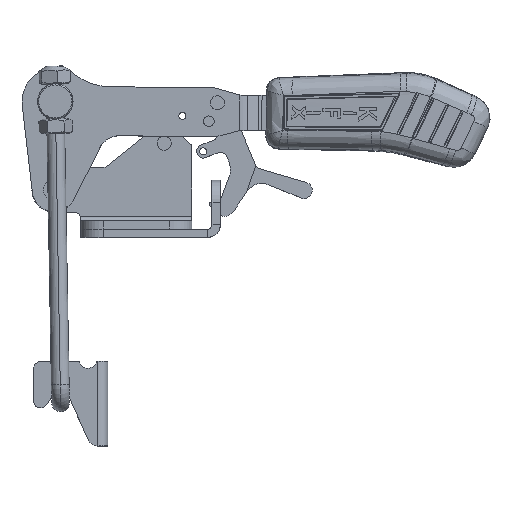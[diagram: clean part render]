
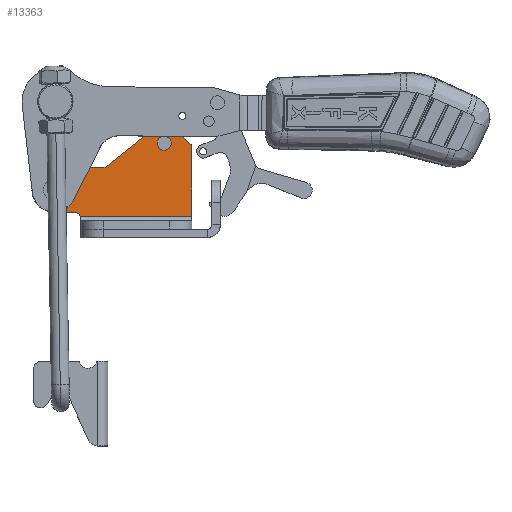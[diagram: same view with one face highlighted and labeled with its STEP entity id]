
A CAD part, top view. The second image highlights one B-rep face of the part: STEP entity #13363.
In plain terms, the highlighted planar face has unit normal (0, 0, 1).
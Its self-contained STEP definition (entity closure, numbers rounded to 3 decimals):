
#400 = CARTESIAN_POINT ( 'NONE',  ( 25., 24.009, -2.827 ) ) ;
#433 = ORIENTED_EDGE ( 'NONE', *, *, #24719, .T. ) ;
#1514 = AXIS2_PLACEMENT_3D ( 'NONE', #16664, #3031, #18963 ) ;
#1695 = AXIS2_PLACEMENT_3D ( 'NONE', #23393, #9766, #25689 ) ;
#1999 = VECTOR ( 'NONE', #17442, 1000. ) ;
#2250 = DIRECTION ( 'NONE',  ( 0., -1., 0. ) ) ;
#2266 = CIRCLE ( 'NONE', #3888, 2.4 ) ;
#2360 = CARTESIAN_POINT ( 'NONE',  ( 23., 55.028, -2.827 ) ) ;
#2549 = CARTESIAN_POINT ( 'NONE',  ( -37., 45.873, -2.827 ) ) ;
#2585 = FACE_BOUND ( 'NONE', #18282, .T. ) ;
#2856 = VERTEX_POINT ( 'NONE', #9329 ) ;
#3031 = DIRECTION ( 'NONE',  ( 0., 0., 1. ) ) ;
#3302 = CARTESIAN_POINT ( 'NONE',  ( 7.493, 63.112, -2.827 ) ) ;
#3318 = AXIS2_PLACEMENT_3D ( 'NONE', #2360, #18323, #4667 ) ;
#3388 = CARTESIAN_POINT ( 'NONE',  ( -28., 22.873, -2.827 ) ) ;
#3414 = EDGE_CURVE ( 'NONE', #22470, #20872, #24982, .T. ) ;
#3448 = VERTEX_POINT ( 'NONE', #18300 ) ;
#3479 = DIRECTION ( 'NONE',  ( -0.78, -0.626, 0. ) ) ;
#3834 = CIRCLE ( 'NONE', #13746, 10. ) ;
#3888 = AXIS2_PLACEMENT_3D ( 'NONE', #6011, #21915, #8278 ) ;
#3941 = CARTESIAN_POINT ( 'NONE',  ( 25., 55.028, -2.827 ) ) ;
#4380 = ORIENTED_EDGE ( 'NONE', *, *, #22851, .F. ) ;
#4667 = DIRECTION ( 'NONE',  ( 0., -1., 0. ) ) ;
#5005 = VECTOR ( 'NONE', #3479, 1000. ) ;
#5230 = EDGE_CURVE ( 'NONE', #13210, #11277, #28467, .T. ) ;
#5370 = LINE ( 'NONE', #5592, #17474 ) ;
#5395 = CIRCLE ( 'NONE', #23181, 8. ) ;
#5592 = CARTESIAN_POINT ( 'NONE',  ( 24.395, 56.462, -2.827 ) ) ;
#5597 = DIRECTION ( 'NONE',  ( 0., 0., 1. ) ) ;
#5668 = DIRECTION ( 'NONE',  ( 0., -1., 0. ) ) ;
#5909 = ORIENTED_EDGE ( 'NONE', *, *, #23953, .T. ) ;
#6011 = CARTESIAN_POINT ( 'NONE',  ( 12.5, 56.873, -2.827 ) ) ;
#6160 = VERTEX_POINT ( 'NONE', #15614 ) ;
#6642 = VERTEX_POINT ( 'NONE', #25071 ) ;
#6850 = EDGE_CURVE ( 'NONE', #2856, #6642, #20280, .T. ) ;
#6957 = CARTESIAN_POINT ( 'NONE',  ( 12.5, 59.273, -2.827 ) ) ;
#7224 = CARTESIAN_POINT ( 'NONE',  ( -28., 24.009, -2.827 ) ) ;
#8119 = ORIENTED_EDGE ( 'NONE', *, *, #24011, .F. ) ;
#8278 = DIRECTION ( 'NONE',  ( 0., -1., 0. ) ) ;
#8634 = FACE_BOUND ( 'NONE', #14154, .T. ) ;
#8699 = DIRECTION ( 'NONE',  ( 0., 0., 1. ) ) ;
#9092 = DIRECTION ( 'NONE',  ( 0., 0., 1. ) ) ;
#9301 = CARTESIAN_POINT ( 'NONE',  ( 12.5, 56.873, -2.827 ) ) ;
#9329 = CARTESIAN_POINT ( 'NONE',  ( 25., 55.028, -2.827 ) ) ;
#9439 = CARTESIAN_POINT ( 'NONE',  ( -25.224, 24.009, -2.827 ) ) ;
#9455 = CARTESIAN_POINT ( 'NONE',  ( -15.396, 45.873, -2.827 ) ) ;
#9766 = DIRECTION ( 'NONE',  ( 0., 0., -1. ) ) ;
#9982 = VECTOR ( 'NONE', #18698, 1000. ) ;
#10049 = EDGE_CURVE ( 'NONE', #23153, #26311, #26916, .T. ) ;
#10376 = CIRCLE ( 'NONE', #22400, 4. ) ;
#10974 = CARTESIAN_POINT ( 'NONE',  ( -37., 35.873, -2.827 ) ) ;
#11277 = VERTEX_POINT ( 'NONE', #9455 ) ;
#11598 = DIRECTION ( 'NONE',  ( 0., -1., 0. ) ) ;
#11907 = CARTESIAN_POINT ( 'NONE',  ( -28., 25.873, -2.827 ) ) ;
#13001 = DIRECTION ( 'NONE',  ( 0., 1., 0. ) ) ;
#13210 = VERTEX_POINT ( 'NONE', #15304 ) ;
#13236 = VECTOR ( 'NONE', #27248, 1000. ) ;
#13283 = DIRECTION ( 'NONE',  ( 0., -1., 0. ) ) ;
#13363 = ADVANCED_FACE ( 'NONE', ( #26070, #8634, #2585 ), #18109, .T. ) ;
#13746 = AXIS2_PLACEMENT_3D ( 'NONE', #19248, #5597, #21513 ) ;
#13884 = VERTEX_POINT ( 'NONE', #26967 ) ;
#13999 = ORIENTED_EDGE ( 'NONE', *, *, #18313, .T. ) ;
#14060 = VERTEX_POINT ( 'NONE', #400 ) ;
#14154 = EDGE_LOOP ( 'NONE', ( #23109, #15980 ) ) ;
#14673 = LINE ( 'NONE', #18147, #13236 ) ;
#15304 = CARTESIAN_POINT ( 'NONE',  ( -12.893, 46.753, -2.827 ) ) ;
#15465 = VECTOR ( 'NONE', #13001, 1000. ) ;
#15614 = CARTESIAN_POINT ( 'NONE',  ( -37., 31.873, -2.827 ) ) ;
#15745 = ORIENTED_EDGE ( 'NONE', *, *, #15774, .T. ) ;
#15774 = EDGE_CURVE ( 'NONE', #29105, #13210, #28462, .T. ) ;
#15908 = DIRECTION ( 'NONE',  ( 0., 0., 1. ) ) ;
#15968 = CIRCLE ( 'NONE', #1514, 8. ) ;
#15980 = ORIENTED_EDGE ( 'NONE', *, *, #21675, .F. ) ;
#16664 = CARTESIAN_POINT ( 'NONE',  ( 12.5, 56.873, -2.827 ) ) ;
#16773 = ORIENTED_EDGE ( 'NONE', *, *, #21225, .T. ) ;
#16791 = LINE ( 'NONE', #7224, #9982 ) ;
#17442 = DIRECTION ( 'NONE',  ( 1., 0., 0. ) ) ;
#17474 = VECTOR ( 'NONE', #21506, 1000. ) ;
#17818 = CARTESIAN_POINT ( 'NONE',  ( 18.079, 62.607, -2.827 ) ) ;
#18034 = EDGE_CURVE ( 'NONE', #13884, #6160, #27677, .T. ) ;
#18109 = PLANE ( 'NONE',  #21389 ) ;
#18147 = CARTESIAN_POINT ( 'NONE',  ( -15.396, 45.873, -2.827 ) ) ;
#18282 = EDGE_LOOP ( 'NONE', ( #21686, #4380 ) ) ;
#18300 = CARTESIAN_POINT ( 'NONE',  ( 12.5, 64.873, -2.827 ) ) ;
#18313 = EDGE_CURVE ( 'NONE', #3448, #29105, #15968, .T. ) ;
#18323 = DIRECTION ( 'NONE',  ( 0., 0., 1. ) ) ;
#18385 = EDGE_CURVE ( 'NONE', #29391, #23153, #3834, .T. ) ;
#18426 = CARTESIAN_POINT ( 'NONE',  ( 12.5, 54.473, -2.827 ) ) ;
#18567 = VERTEX_POINT ( 'NONE', #9439 ) ;
#18698 = DIRECTION ( 'NONE',  ( -1., 0., 0. ) ) ;
#18963 = DIRECTION ( 'NONE',  ( 0., -1., 0. ) ) ;
#19248 = CARTESIAN_POINT ( 'NONE',  ( -37., 35.873, -2.827 ) ) ;
#19312 = DIRECTION ( 'NONE',  ( 0., 0., -1. ) ) ;
#19444 = AXIS2_PLACEMENT_3D ( 'NONE', #22729, #9092, #24996 ) ;
#20280 = CIRCLE ( 'NONE', #3318, 2. ) ;
#20872 = VERTEX_POINT ( 'NONE', #18426 ) ;
#21225 = EDGE_CURVE ( 'NONE', #14060, #2856, #21510, .T. ) ;
#21389 = AXIS2_PLACEMENT_3D ( 'NONE', #24890, #15908, #2250 ) ;
#21506 = DIRECTION ( 'NONE',  ( -0.717, 0.697, 0. ) ) ;
#21510 = LINE ( 'NONE', #3941, #15465 ) ;
#21513 = DIRECTION ( 'NONE',  ( 0., -1., 0. ) ) ;
#21675 = EDGE_CURVE ( 'NONE', #20872, #22470, #2266, .T. ) ;
#21686 = ORIENTED_EDGE ( 'NONE', *, *, #18034, .F. ) ;
#21882 = ORIENTED_EDGE ( 'NONE', *, *, #27530, .T. ) ;
#21915 = DIRECTION ( 'NONE',  ( 0., 0., 1. ) ) ;
#22166 = EDGE_LOOP ( 'NONE', ( #8119, #16773, #26248, #433, #5909, #13999, #15745, #25911, #28632, #26474, #28630, #21882 ) ) ;
#22339 = CARTESIAN_POINT ( 'NONE',  ( -37., 35.873, -2.827 ) ) ;
#22400 = AXIS2_PLACEMENT_3D ( 'NONE', #22339, #8699, #24584 ) ;
#22470 = VERTEX_POINT ( 'NONE', #6957 ) ;
#22729 = CARTESIAN_POINT ( 'NONE',  ( 12.5, 56.873, -2.827 ) ) ;
#22851 = EDGE_CURVE ( 'NONE', #6160, #13884, #10376, .T. ) ;
#23109 = ORIENTED_EDGE ( 'NONE', *, *, #3414, .F. ) ;
#23153 = VERTEX_POINT ( 'NONE', #28541 ) ;
#23181 = AXIS2_PLACEMENT_3D ( 'NONE', #9301, #25204, #11598 ) ;
#23393 = CARTESIAN_POINT ( 'NONE',  ( -15.396, 49.873, -2.827 ) ) ;
#23409 = EDGE_CURVE ( 'NONE', #11277, #29391, #14673, .T. ) ;
#23953 = EDGE_CURVE ( 'NONE', #26053, #3448, #5395, .T. ) ;
#23974 = AXIS2_PLACEMENT_3D ( 'NONE', #10974, #26886, #13283 ) ;
#24011 = EDGE_CURVE ( 'NONE', #14060, #18567, #16791, .T. ) ;
#24237 = CARTESIAN_POINT ( 'NONE',  ( -28., 25.873, -2.827 ) ) ;
#24462 = CIRCLE ( 'NONE', #27294, 3. ) ;
#24584 = DIRECTION ( 'NONE',  ( 0., -1., 0. ) ) ;
#24719 = EDGE_CURVE ( 'NONE', #6642, #26053, #5370, .T. ) ;
#24890 = CARTESIAN_POINT ( 'NONE',  ( -28., 22.873, -2.827 ) ) ;
#24982 = CIRCLE ( 'NONE', #19444, 2.4 ) ;
#24996 = DIRECTION ( 'NONE',  ( 0., -1., 0. ) ) ;
#25071 = CARTESIAN_POINT ( 'NONE',  ( 24.395, 56.462, -2.827 ) ) ;
#25204 = DIRECTION ( 'NONE',  ( 0., 0., 1. ) ) ;
#25689 = DIRECTION ( 'NONE',  ( 0., -1., 0. ) ) ;
#25911 = ORIENTED_EDGE ( 'NONE', *, *, #5230, .T. ) ;
#26053 = VERTEX_POINT ( 'NONE', #17818 ) ;
#26070 = FACE_OUTER_BOUND ( 'NONE', #22166, .T. ) ;
#26248 = ORIENTED_EDGE ( 'NONE', *, *, #6850, .T. ) ;
#26311 = VERTEX_POINT ( 'NONE', #11907 ) ;
#26474 = ORIENTED_EDGE ( 'NONE', *, *, #18385, .T. ) ;
#26886 = DIRECTION ( 'NONE',  ( 0., 0., 1. ) ) ;
#26916 = LINE ( 'NONE', #24237, #1999 ) ;
#26967 = CARTESIAN_POINT ( 'NONE',  ( -37., 39.873, -2.827 ) ) ;
#27248 = DIRECTION ( 'NONE',  ( -1., 0., 0. ) ) ;
#27294 = AXIS2_PLACEMENT_3D ( 'NONE', #3388, #19312, #5668 ) ;
#27530 = EDGE_CURVE ( 'NONE', #26311, #18567, #24462, .T. ) ;
#27677 = CIRCLE ( 'NONE', #23974, 4. ) ;
#28411 = CARTESIAN_POINT ( 'NONE',  ( -12.893, 46.753, -2.827 ) ) ;
#28462 = LINE ( 'NONE', #28411, #5005 ) ;
#28467 = CIRCLE ( 'NONE', #1695, 4. ) ;
#28541 = CARTESIAN_POINT ( 'NONE',  ( -37., 25.873, -2.827 ) ) ;
#28630 = ORIENTED_EDGE ( 'NONE', *, *, #10049, .T. ) ;
#28632 = ORIENTED_EDGE ( 'NONE', *, *, #23409, .T. ) ;
#29105 = VERTEX_POINT ( 'NONE', #3302 ) ;
#29391 = VERTEX_POINT ( 'NONE', #2549 ) ;
